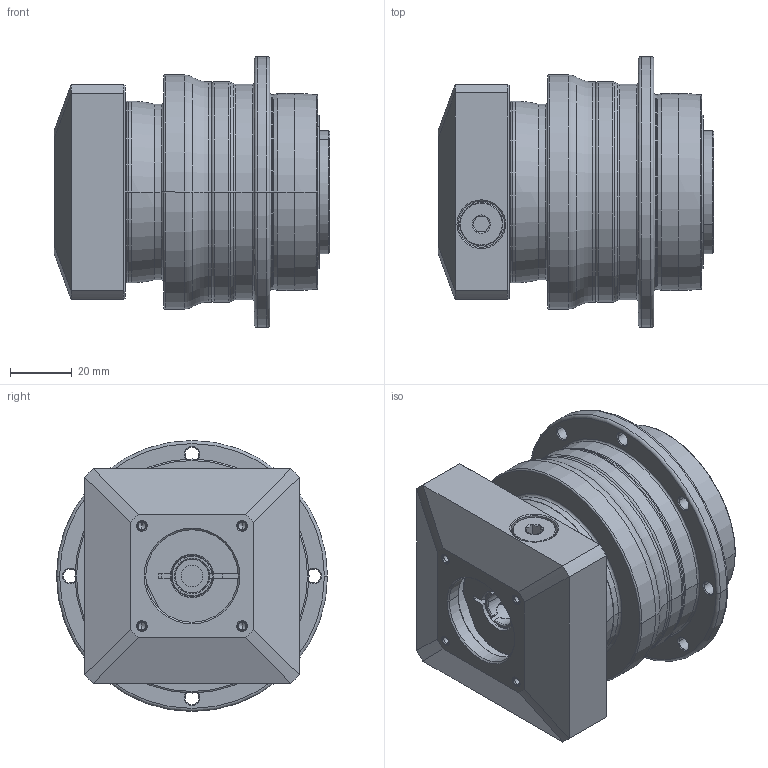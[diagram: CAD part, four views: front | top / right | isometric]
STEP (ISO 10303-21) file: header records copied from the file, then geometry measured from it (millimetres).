
FILE_DESCRIPTION((''),'2;1');
FILE_NAME('AH064_1ST_11-P0409200101_ASM','2016-07-20T',('d00435'),(''),'PRO/ENGINEER BY PARAMETRIC TECHNOLOGY CORPORATION, 2008410','PRO/ENGINEER BY PARAMETRIC TECHNOLOGY CORPORATION, 2008410','');
FILE_SCHEMA(('CONFIG_CONTROL_DESIGN'));
Length unit declared in the file: millimetre
Products named in the file (8): P0255200003; P0359200003; P1318200101; P0409200101; P0503200005; P0912201001; 21711410012; AH064_1ST_11-P0409200101_ASM
Assembly tree (7 placements, depth 2):
  AH064_1ST_11-P0409200101_ASM
    P0255200003
    P0359200003
    P1318200101
    P0409200101
    P0503200005
    P0912201001
    21711410012
Bounding box: 89.5 x 88 x 88 mm (x, y, z)
Volume: 297907.7 mm3; surface area: 78981.5 mm2
Topology: 8 solids, 30 shells, 572 faces, 1322 edges, 800 vertices
Faces by surface type: cylinder 232, cone 150, plane 110, torus 64, bspline 16
Entity records: 20677 total; most frequent: CARTESIAN_POINT 7350, DIRECTION 3041, ORIENTED_EDGE 2472, AXIS2_PLACEMENT_3D 1294, EDGE_CURVE 1280, VERTEX_POINT 800, CIRCLE 713, EDGE_LOOP 678
